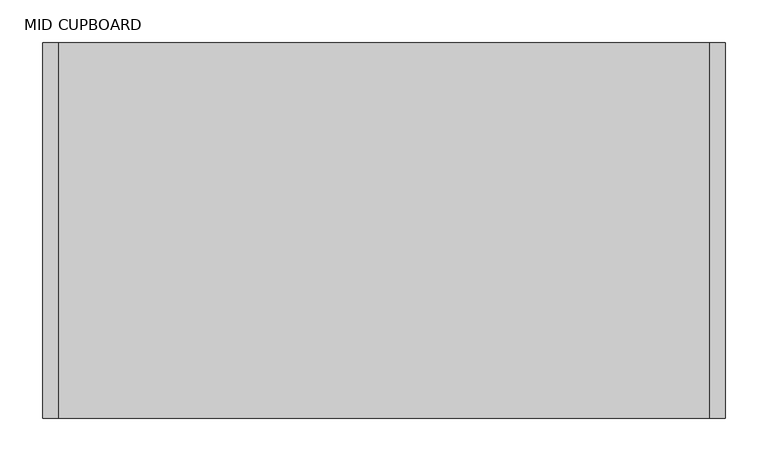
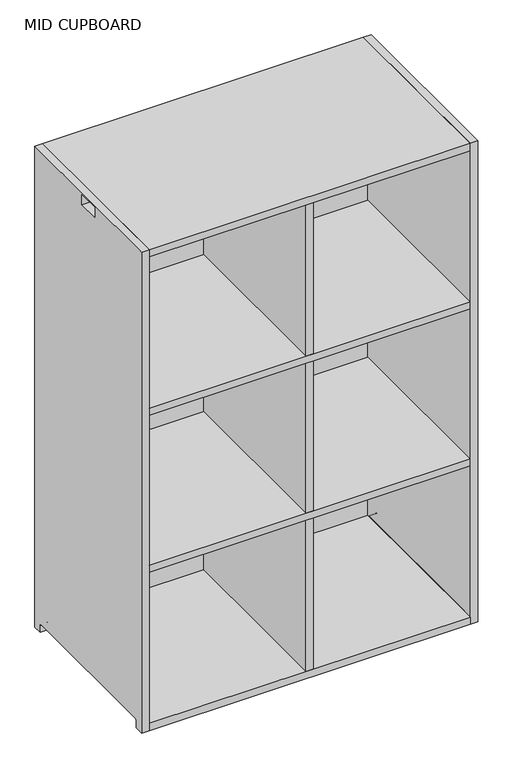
"""IFC4 building model written with IfcOpenShell, lengths in millimetres: furniture geometry, MID CUPBOARD : 800mmW_SHELVES & DIVIDER."""

from ifc_helpers import new_model, si_unit, point, frame, frame_2d, origin, place, context, project, spatial, polyline, circle_curve, trimmed, segment, composite_curve, outline, extrude, source, transform, mapped, element, save
from ifc_brep_helpers import plane_surface, revolved_surface, advanced_brep


def mid_cupboard_15069c7e(model_context):
    return source(origin(), model_context, "Body", "SolidModel", [
        extrude(outline(composite_curve([segment(polyline([(-220.0, 1210.0), (220.0, 1210.0), (220.0, 0.0), (198.0, 0.0), (198.0, 17.0)]), True, "CONTINUOUS"), segment(trimmed(circle_curve(frame_2d((194.0, 17.0)), 4.0), [point((198.0, 17.0))], [point((194.0, 21.0))], True, "CARTESIAN"), True, "CONTINUOUS"), segment(polyline([(194.0, 21.0), (-194.0, 21.0)]), True, "CONTINUOUS"), segment(trimmed(circle_curve(frame_2d((-194.0, 17.0)), 4.0), [point((-194.0, 21.0))], [point((-198.0, 17.0))], True, "CARTESIAN"), True, "CONTINUOUS"), segment(polyline([(-198.0, 17.0), (-198.0, 0.0), (-220.0, 0.0), (-220.0, 1210.0)]), True, "CONTINUOUS")], self_intersect=False), holes=[polyline([(-26.0, 1205.0), (-26.0, 1180.0), (26.0, 1180.0), (26.0, 1205.0), (-26.0, 1205.0)])]), frame((-400.0, 0.0, 0.0), z_axis=(1.0, 0.0, 0.0), x_axis=(0.0, 1.0, 0.0)), (0.0, 0.0, 1.0), 18.0),
        advanced_brep(
        [(382.0, 220.0, 18.0), (-382.0, 220.0, 18.0), (-382.0, 197.8729833, 18.0), (-376.1019215, 197.8729833, 18.0), (-376.1019215, -197.8729833, 18.0), (-382.0, -197.8729833, 18.0), (-382.0, -220.0, 18.0), (382.0, -220.0, 18.0), (382.0, 220.0, 0.0), (382.0, -220.0, 0.0), (-382.0, -220.0, 0.0), (-382.0, -198.0, 0.0), (-376.1019215, -198.0, 0.0), (-376.1019215, 198.0, 0.0), (-382.0, 198.0, 0.0), (-382.0, 220.0, 0.0), (-382.0, 198.0, 17.0), (-382.0, -198.0, 17.0), (-376.1019215, 198.0, 17.0), (-376.1019215, -198.0, 17.0)],
        [
            (0, 1),
            (1, 2),
            (2, 3),
            (3, 4),
            (4, 5),
            (5, 6),
            (6, 7),
            (7, 0),
            (8, 9),
            (9, 10),
            (10, 11),
            (11, 12),
            (12, 13),
            (13, 14),
            (14, 15),
            (15, 8),
            (0, 8),
            (15, 1),
            (14, 16),
            (16, 2, circle_curve(frame((-382.0, 194.0, 17.0), z_axis=(1.0, 0.0, 0.0), x_axis=(0.0, 1.0, 0.0)), 4.0)),
            (10, 6),
            (5, 17, circle_curve(frame((-382.0, -194.0, 17.0), z_axis=(1.0, 0.0, 0.0), x_axis=(0.0, 1.0, 0.0)), 4.0)),
            (17, 11),
            (9, 7),
            (18, 13),
            (12, 19),
            (19, 4, circle_curve(frame((-376.1019215, -194.0, 17.0), z_axis=(-1.0, 0.0, 0.0), x_axis=(0.0, 1.0, 0.0)), 4.0)),
            (3, 18, circle_curve(frame((-376.1019215, 194.0, 17.0), z_axis=(-1.0, 0.0, 0.0), x_axis=(0.0, 1.0, 0.0)), 4.0)),
            (19, 17),
            (18, 16),
        ],
        [
            plane_surface(frame((-382.0, 220.0, 18.0), z_axis=(0.0, 0.0, 1.0), x_axis=(-1.0, 0.0, 0.0))),
            plane_surface(frame((-382.0, 220.0, 0.0), z_axis=(0.0, 0.0, -1.0), x_axis=(1.0, 0.0, 0.0))),
            plane_surface(frame((382.0, 220.0, 18.0), z_axis=(0.0, 1.0, 0.0), x_axis=(0.0, 0.0, -1.0))),
            plane_surface(frame((-382.0, 220.0, 18.0), z_axis=(-1.0, 0.0, 0.0), x_axis=(0.0, 0.0, -1.0))),
            plane_surface(frame((-382.0, -220.0, 18.0), z_axis=(0.0, -1.0, 0.0), x_axis=(0.0, 0.0, -1.0))),
            plane_surface(frame((382.0, -220.0, 18.0), z_axis=(1.0, 0.0, 0.0), x_axis=(0.0, 0.0, -1.0))),
            plane_surface(frame((-376.1019215, -190.0, 17.0), z_axis=(-1.0, 0.0, 0.0), x_axis=(0.0, 0.0, 1.0))),
            revolved_surface(polyline([(-376.1019215, -190.0, 17.0), (-382.0, -190.0, 17.0)]), (-406.0458228, -194.0, 17.0), (1.0, 0.0, 0.0)),
            plane_surface(frame((-376.1019215, -198.0, 17.0), z_axis=(0.0, 1.0, 0.0), x_axis=(-1.0, 0.0, 0.0))),
            plane_surface(frame((-376.1019215, 198.0, 0.0), z_axis=(0.0, -1.0, 0.0), x_axis=(-1.0, 0.0, 0.0))),
            revolved_surface(polyline([(-376.1019215, 198.0, 17.0), (-382.0, 198.0, 17.0)]), (-406.0458228, 194.0, 17.0), (1.0, 0.0, 0.0)),
        ],
        [
            (0, [[1, 2, 3, 4, 5, 6, 7, 8]]),
            (1, [[9, 10, 11, 12, 13, 14, 15, 16]]),
            (2, [[-1, 17, -16, 18]]),
            (3, [[-18, -15, 19, 20, -2]]),
            (3, [[21, -6, 22, 23, -11]]),
            (4, [[-7, -21, -10, 24]]),
            (5, [[-8, -24, -9, -17]]),
            (6, [[25, -13, 26, 27, -4, 28]]),
            (7, [[-27, 29, -22, -5]]),
            (8, [[-26, -12, -23, -29]]),
            (9, [[-25, 30, -19, -14]]),
            (10, [[-28, -3, -20, -30]]),
        ],
    ),
        extrude(outline(composite_curve([segment(polyline([(-220.0, 1210.0), (220.0, 1210.0), (220.0, 0.0), (198.0, 0.0), (198.0, 17.0)]), True, "CONTINUOUS"), segment(trimmed(circle_curve(frame_2d((194.0, 17.0)), 4.0), [point((198.0, 17.0))], [point((194.0, 21.0))], True, "CARTESIAN"), True, "CONTINUOUS"), segment(polyline([(194.0, 21.0), (-194.0, 21.0)]), True, "CONTINUOUS"), segment(trimmed(circle_curve(frame_2d((-194.0, 17.0)), 4.0), [point((-194.0, 21.0))], [point((-198.0, 17.0))], True, "CARTESIAN"), True, "CONTINUOUS"), segment(polyline([(-198.0, 17.0), (-198.0, 0.0), (-220.0, 0.0), (-220.0, 1210.0)]), True, "CONTINUOUS")], self_intersect=False), holes=[polyline([(-26.0, 1205.0), (-26.0, 1180.0), (26.0, 1180.0), (26.0, 1205.0), (-26.0, 1205.0)])]), frame((382.0, 0.0, 0.0), z_axis=(1.0, 0.0, 0.0), x_axis=(0.0, 1.0, 0.0)), (0.0, 0.0, 1.0), 18.0),
        extrude(outline(polyline([(382.0, 220.0), (382.0, 202.0), (-382.0, 202.0), (-382.0, 220.0), (382.0, 220.0)])), frame((0.0, 0.0, 18.0), z_axis=(0.0, 0.0, 1.0), x_axis=(1.0, 0.0, 0.0)), (0.0, 0.0, 1.0), 1174.0),
        extrude(outline(polyline([(382.0, 202.0), (382.0, -220.0), (-382.0, -220.0), (-382.0, 202.0), (382.0, 202.0)])), frame((0.0, 0.0, 398.5), z_axis=(0.0, 0.0, 1.0), x_axis=(1.0, 0.0, 0.0)), (0.0, 0.0, 1.0), 18.0),
        extrude(outline(polyline([(382.0, 202.0), (382.0, -220.0), (-382.0, -220.0), (-382.0, 202.0), (382.0, 202.0)])), frame((0.0, 0.0, 793.5), z_axis=(0.0, 0.0, 1.0), x_axis=(1.0, 0.0, 0.0)), (0.0, 0.0, 1.0), 18.0),
        extrude(outline(polyline([(382.0, 220.0), (382.0, -220.0), (-382.0, -220.0), (-382.0, 220.0), (382.0, 220.0)])), frame((0.0, 0.0, 1192.0), z_axis=(0.0, 0.0, 1.0), x_axis=(1.0, 0.0, 0.0)), (0.0, 0.0, 1.0), 18.0),
        extrude(outline(polyline([(9.0, 202.0), (9.0, -220.0), (-9.0, -220.0), (-9.0, 202.0), (9.0, 202.0)])), frame((0.0, 0.0, 18.0), z_axis=(0.0, 0.0, 1.0), x_axis=(1.0, 0.0, 0.0)), (0.0, 0.0, 1.0), 1174.0),
    ])


if __name__ == "__main__":
    model = new_model("IFC4")
    model_context = context("Model", 3, world=origin())
    ifc_project = project(units=[si_unit("LENGTHUNIT", "METRE", prefix="MILLI")], contexts=[model_context])
    site = spatial("IfcSite", under=ifc_project)
    building = spatial("IfcBuilding", under=site)
    placement = place(None, origin())
    mid_cupboard_shape = mid_cupboard_15069c7e(model_context)
    element("IfcFurniture", 1, ObjectType="MID CUPBOARD : 800mmW_SHELVES & DIVIDER", at=placement, inside=building, context=model_context, shape_type="MappedRepresentation", body=[
        mapped(mid_cupboard_shape, transform((0.0, 0.0, 0.0), x_axis=(1.0, 0.0, 0.0), y_axis=(0.0, 1.0, 0.0), z_axis=(0.0, 0.0, 1.0))),
    ])
    save(model, "model.ifc")
